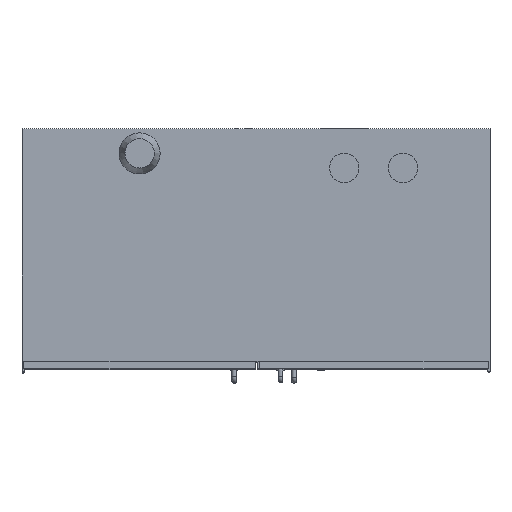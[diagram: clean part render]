
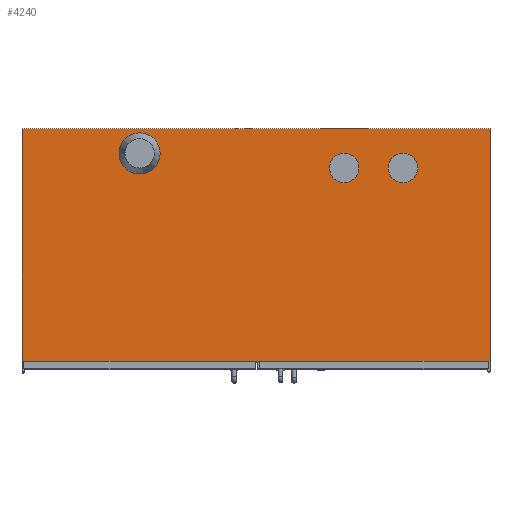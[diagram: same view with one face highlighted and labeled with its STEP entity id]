
A CAD part, top view. The second image highlights one B-rep face of the part: STEP entity #4240.
In plain terms, the highlighted planar face has unit normal (0, 0, 1).
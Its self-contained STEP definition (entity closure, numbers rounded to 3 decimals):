
#82=CIRCLE('',#4372,37.5);
#112=CIRCLE('',#4444,52.5);
#121=CIRCLE('',#4473,37.5);
#552=ORIENTED_EDGE('',*,*,#1202,.T.);
#553=ORIENTED_EDGE('',*,*,#1035,.F.);
#554=ORIENTED_EDGE('',*,*,#1156,.F.);
#555=ORIENTED_EDGE('',*,*,#995,.T.);
#556=ORIENTED_EDGE('',*,*,#1040,.T.);
#557=ORIENTED_EDGE('',*,*,#1203,.F.);
#558=ORIENTED_EDGE('',*,*,#1179,.T.);
#995=EDGE_CURVE('',#1396,#1395,#1678,.T.);
#1035=EDGE_CURVE('',#1428,#1428,#82,.F.);
#1040=EDGE_CURVE('',#1395,#1432,#1717,.T.);
#1156=EDGE_CURVE('',#1527,#1527,#112,.T.);
#1179=EDGE_CURVE('',#1531,#1396,#1828,.T.);
#1202=EDGE_CURVE('',#1551,#1551,#121,.T.);
#1203=EDGE_CURVE('',#1531,#1432,#1843,.T.);
#1395=VERTEX_POINT('',#5527);
#1396=VERTEX_POINT('',#5529);
#1428=VERTEX_POINT('',#5607);
#1432=VERTEX_POINT('',#5617);
#1527=VERTEX_POINT('',#5869);
#1531=VERTEX_POINT('',#5914);
#1551=VERTEX_POINT('',#5959);
#1678=LINE('',#5528,#1999);
#1717=LINE('',#5618,#2038);
#1828=LINE('',#5913,#2149);
#1843=LINE('',#5960,#2164);
#1999=VECTOR('',#4665,1000.);
#2038=VECTOR('',#4732,1000.);
#2149=VECTOR('',#5015,1000.);
#2164=VECTOR('',#5052,1000.);
#2400=EDGE_LOOP('',(#552));
#2401=EDGE_LOOP('',(#553));
#2402=EDGE_LOOP('',(#554));
#2403=EDGE_LOOP('',(#555,#556,#557,#558));
#2650=FACE_BOUND('',#2400,.T.);
#2651=FACE_BOUND('',#2401,.T.);
#2652=FACE_BOUND('',#2402,.T.);
#2653=FACE_BOUND('',#2403,.T.);
#2842=PLANE('',#4472);
#4240=ADVANCED_FACE('',(#2650,#2651,#2652,#2653),#2842,.F.);
#4372=AXIS2_PLACEMENT_3D('',#5606,#4720,#4721);
#4444=AXIS2_PLACEMENT_3D('',#5868,#4955,#4956);
#4472=AXIS2_PLACEMENT_3D('',#5957,#5048,#5049);
#4473=AXIS2_PLACEMENT_3D('',#5958,#5050,#5051);
#4665=DIRECTION('',(1.,0.,0.));
#4720=DIRECTION('',(0.,0.,-1.));
#4721=DIRECTION('',(-1.,0.,0.));
#4732=DIRECTION('',(0.,1.,0.));
#4955=DIRECTION('',(0.,0.,1.));
#4956=DIRECTION('',(1.,0.,0.));
#5015=DIRECTION('',(0.,-1.,0.));
#5048=DIRECTION('',(0.,0.,-1.));
#5049=DIRECTION('',(1.,0.,0.));
#5050=DIRECTION('',(0.,0.,-1.));
#5051=DIRECTION('',(-1.,0.,0.));
#5052=DIRECTION('',(1.,0.,0.));
#5527=CARTESIAN_POINT('',(1194.,19.,2048.));
#5528=CARTESIAN_POINT('',(3.,19.,2048.));
#5529=CARTESIAN_POINT('',(0.,19.,2048.));
#5606=CARTESIAN_POINT('',(822.,512.,2048.));
#5607=CARTESIAN_POINT('',(784.5,512.,2048.));
#5617=CARTESIAN_POINT('',(1194.,612.,2048.));
#5618=CARTESIAN_POINT('',(1194.,19.,2048.));
#5868=CARTESIAN_POINT('',(300.,549.,2048.));
#5869=CARTESIAN_POINT('',(352.5,549.,2048.));
#5913=CARTESIAN_POINT('',(0.,631.,2048.));
#5914=CARTESIAN_POINT('',(0.,612.,2048.));
#5957=CARTESIAN_POINT('',(3.,631.,2048.));
#5958=CARTESIAN_POINT('',(972.,512.,2048.));
#5959=CARTESIAN_POINT('',(934.5,512.,2048.));
#5960=CARTESIAN_POINT('',(3.,612.,2048.));
